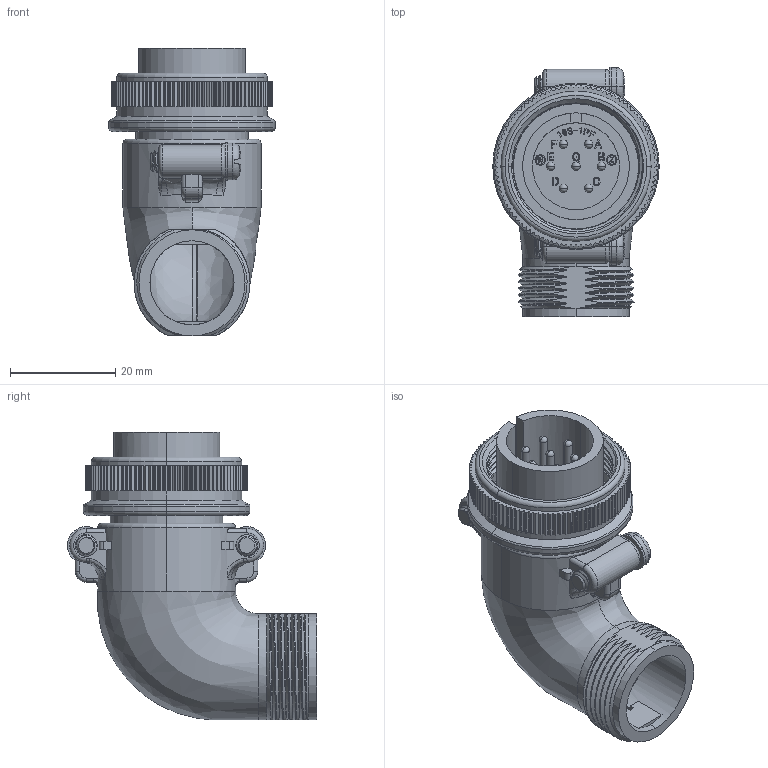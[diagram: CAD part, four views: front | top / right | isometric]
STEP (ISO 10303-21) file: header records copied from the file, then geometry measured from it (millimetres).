
FILE_DESCRIPTION (( 'STEP AP203' ), '1' );
FILE_NAME ('DMS3108B16S-1P.STEP', '2017-08-07T02:49:34', ( '' ), ( '' ), 'SwSTEP 2.0', 'SolidWorks 2015', '' );
FILE_SCHEMA (( 'CONFIG_CONTROL_DESIGN' ));
Products named in the file (1): DMS3108B16S-1P
Bounding box: 31.7 x 47.46 x 54.77 mm (x, y, z)
Volume: 15869 mm3; surface area: 16039.3 mm2
Topology: 1 solids, 1 shells, 1548 faces, 4336 edges, 2841 vertices
Faces by surface type: plane 686, cylinder 491, bspline 288, cone 39, torus 26, sphere 18
Entity records: 72629 total; most frequent: CARTESIAN_POINT 34454, ORIENTED_EDGE 8588, DIRECTION 7075, EDGE_CURVE 4294, VERTEX_POINT 2827, VECTOR 2497, LINE 2497, AXIS2_PLACEMENT_3D 2289
